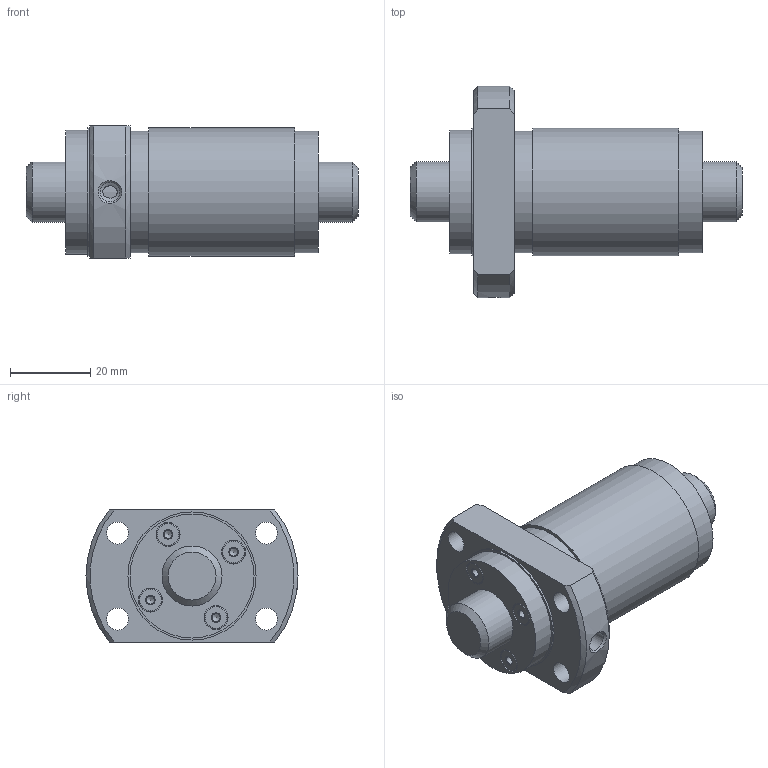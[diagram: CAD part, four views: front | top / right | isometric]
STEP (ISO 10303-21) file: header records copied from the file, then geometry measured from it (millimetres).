
FILE_DESCRIPTION(/* description */ ('STEP AP203'),/* implementation_level */ '2;1');
FILE_NAME(/* name */ 'WGF1530-3G1+83LC3_N0_13_0_0',/* time_stamp */ '2025-01-16T06:25:24+01:00',/* author */ ('License CC BY-ND 4.0'),/* organization */ ('CADENAS'),/* preprocessor_version */ 'ST-DEVELOPER v19.3',/* originating_system */ 'PARTsolutions',/* authorisation */ ' ');
FILE_SCHEMA (('CONFIG_CONTROL_DESIGN'));
Length unit declared in the file: millimetre
Products named in the file (3): WGF1530-3G1+83LC3_N0_13_0_0; N0130WGF1530-30Shaft; N0130WGF1530-3Nut
Assembly tree (2 placements, depth 2):
  WGF1530-3G1+83LC3_N0_13_0_0
    N0130WGF1530-30Shaft
    N0130WGF1530-3Nut
Bounding box: 83 x 53 x 33 mm (x, y, z)
Volume: 59777 mm3; surface area: 18501.9 mm2
Topology: 2 solids, 2 shells, 65 faces, 132 edges, 84 vertices
Faces by surface type: cylinder 26, plane 19, cone 16, torus 4
Full cylindrical faces by diameter (mm): 2 x4, 4.917 x1, 5.5 x4, 5.8 x4, 6 x4, 15 x2, 30.4 x2, 31 x1, 32 x2
Entity records: 1587 total; most frequent: CARTESIAN_POINT 280, DIRECTION 276, ORIENTED_EDGE 168, FACE_BOUND 134, AXIS2_PLACEMENT_3D 134, EDGE_LOOP 130, EDGE_CURVE 84, VERTEX_POINT 80
